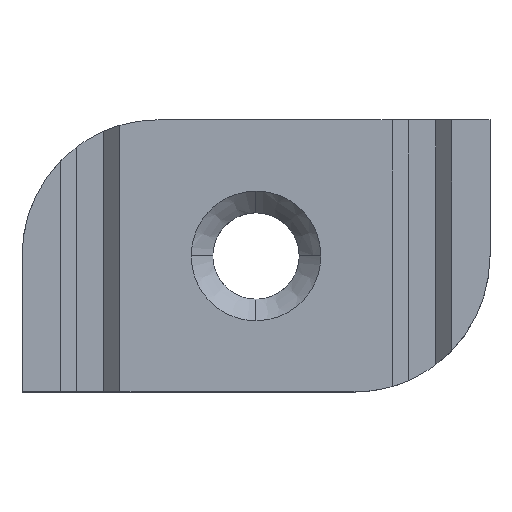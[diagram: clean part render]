
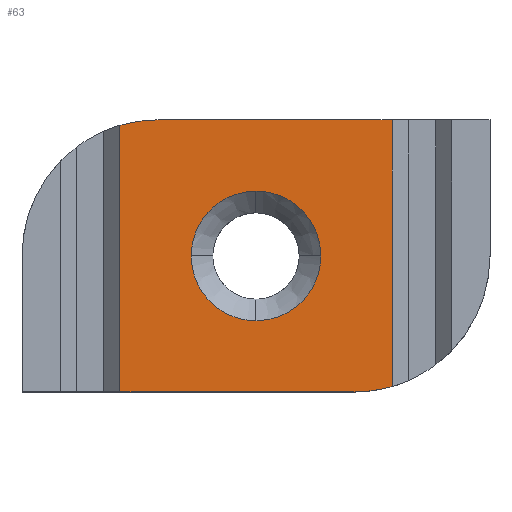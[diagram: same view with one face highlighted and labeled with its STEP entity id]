
A CAD part, top view. The second image highlights one B-rep face of the part: STEP entity #63.
In plain terms, the highlighted planar face has unit normal (0, 0, 1).
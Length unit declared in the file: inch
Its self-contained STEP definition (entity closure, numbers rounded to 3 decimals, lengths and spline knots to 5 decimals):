
#63=ADVANCED_FACE('',(#139,#140),#141,.F.);
#139=FACE_OUTER_BOUND('',#393,.T.);
#140=FACE_BOUND('',#394,.T.);
#141=PLANE('',#395);
#393=EDGE_LOOP('',(#677,#678,#679,#680,#681,#682));
#394=EDGE_LOOP('',(#683,#684,#685,#686));
#395=AXIS2_PLACEMENT_3D('',#687,#688,#689);
#677=ORIENTED_EDGE('',*,*,#872,.T.);
#678=ORIENTED_EDGE('',*,*,#878,.T.);
#679=ORIENTED_EDGE('',*,*,#879,.F.);
#680=ORIENTED_EDGE('',*,*,#880,.T.);
#681=ORIENTED_EDGE('',*,*,#881,.T.);
#682=ORIENTED_EDGE('',*,*,#867,.F.);
#683=ORIENTED_EDGE('',*,*,#882,.F.);
#684=ORIENTED_EDGE('',*,*,#883,.F.);
#685=ORIENTED_EDGE('',*,*,#861,.F.);
#686=ORIENTED_EDGE('',*,*,#855,.F.);
#687=CARTESIAN_POINT('',(0.67717,0.3937,0.25591));
#688=DIRECTION('',(0.0,0.0,-1.0));
#689=DIRECTION('',(1.0,0.0,0.0));
#855=EDGE_CURVE('',#954,#957,#958,.T.);
#861=EDGE_CURVE('',#957,#964,#967,.T.);
#867=EDGE_CURVE('',#976,#978,#979,.T.);
#872=EDGE_CURVE('',#976,#984,#987,.T.);
#878=EDGE_CURVE('',#984,#994,#995,.T.);
#879=EDGE_CURVE('',#996,#994,#997,.T.);
#880=EDGE_CURVE('',#996,#998,#999,.T.);
#881=EDGE_CURVE('',#998,#978,#1000,.T.);
#882=EDGE_CURVE('',#1001,#954,#1002,.T.);
#883=EDGE_CURVE('',#964,#1001,#1003,.T.);
#954=VERTEX_POINT('',#1095);
#957=VERTEX_POINT('',#1099);
#958=B_SPLINE_CURVE_WITH_KNOTS('',3,(#1100,#1101,#1102,#1103,#1104,#1105,#1106,#1107,#1108,#1109,#1110,#1111,#1112,#1113),.UNSPECIFIED.,.F.,.F.,(4,2,2,2,2,2,4),(0.0,0.06432,1.94262,3.7174,3.80371,5.61455,7.43479),.UNSPECIFIED.);
#964=VERTEX_POINT('',#1133);
#967=B_SPLINE_CURVE_WITH_KNOTS('',3,(#1146,#1147,#1148,#1149,#1150,#1151,#1152,#1153,#1154,#1155),.UNSPECIFIED.,.F.,.F.,(4,2,2,2,4),(0.0,1.85394,3.71681,5.57967,7.43361),.UNSPECIFIED.);
#976=VERTEX_POINT('',#1165);
#978=VERTEX_POINT('',#1167);
#979=CIRCLE('',#1168,0.3937);
#984=VERTEX_POINT('',#1174);
#987=LINE('',#1178,#1179);
#994=VERTEX_POINT('',#1189);
#995=LINE('',#1190,#1191);
#996=VERTEX_POINT('',#1192);
#997=CIRCLE('',#1193,0.3937);
#998=VERTEX_POINT('',#1194);
#999=LINE('',#1195,#1196);
#1000=LINE('',#1197,#1198);
#1001=VERTEX_POINT('',#1199);
#1002=B_SPLINE_CURVE_WITH_KNOTS('',3,(#1200,#1201,#1202,#1203,#1204,#1205,#1206,#1207,#1208,#1209,#1210,#1211,#1212,#1213),.UNSPECIFIED.,.F.,.F.,(4,2,2,2,2,2,4),(0.0,0.98873,1.95164,3.7219,3.81272,5.62356,7.4438),.UNSPECIFIED.);
#1003=B_SPLINE_CURVE_WITH_KNOTS('',3,(#1214,#1215,#1216,#1217,#1218,#1219,#1220,#1221,#1222,#1223,#1224,#1225,#1226,#1227),.UNSPECIFIED.,.F.,.F.,(4,2,2,2,2,2,4),(0.0,1.82025,3.63108,3.7174,5.49217,7.37048,7.43479),.UNSPECIFIED.);
#1095=CARTESIAN_POINT('',(0.86467,0.3937,0.25591));
#1099=CARTESIAN_POINT('',(0.67717,0.5812,0.25591));
#1100=CARTESIAN_POINT('',(0.86467,0.3937,0.25591));
#1101=CARTESIAN_POINT('',(0.86467,0.39454,0.25591));
#1102=CARTESIAN_POINT('',(0.86466,0.39539,0.25591));
#1103=CARTESIAN_POINT('',(0.86432,0.42088,0.25591));
#1104=CARTESIAN_POINT('',(0.85896,0.44593,0.25591));
#1105=CARTESIAN_POINT('',(0.83982,0.48989,0.25591));
#1106=CARTESIAN_POINT('',(0.82622,0.50982,0.25591));
#1107=CARTESIAN_POINT('',(0.80892,0.52711,0.25591));
#1108=CARTESIAN_POINT('',(0.80811,0.52791,0.25591));
#1109=CARTESIAN_POINT('',(0.79019,0.54519,0.25591));
#1110=CARTESIAN_POINT('',(0.76954,0.55862,0.25591));
#1111=CARTESIAN_POINT('',(0.72537,0.57651,0.25591));
#1112=CARTESIAN_POINT('',(0.70105,0.5812,0.25591));
#1113=CARTESIAN_POINT('',(0.67717,0.5812,0.25591));
#1133=CARTESIAN_POINT('',(0.48967,0.3937,0.25591));
#1146=CARTESIAN_POINT('',(0.67717,0.5812,0.25591));
#1147=CARTESIAN_POINT('',(0.65284,0.5812,0.25591));
#1148=CARTESIAN_POINT('',(0.62805,0.57632,0.25591));
#1149=CARTESIAN_POINT('',(0.58297,0.55769,0.25591));
#1150=CARTESIAN_POINT('',(0.56187,0.54357,0.25591));
#1151=CARTESIAN_POINT('',(0.5273,0.509,0.25591));
#1152=CARTESIAN_POINT('',(0.51318,0.48789,0.25591));
#1153=CARTESIAN_POINT('',(0.49454,0.44282,0.25591));
#1154=CARTESIAN_POINT('',(0.48967,0.41803,0.25591));
#1155=CARTESIAN_POINT('',(0.48967,0.3937,0.25591));
#1165=CARTESIAN_POINT('',(1.07087,0.01575,0.25591));
#1167=CARTESIAN_POINT('',(0.96063,0.,0.25591));
#1168=AXIS2_PLACEMENT_3D('',#1392,#1393,#1394);
#1174=CARTESIAN_POINT('',(1.07087,0.7874,0.25591));
#1178=CARTESIAN_POINT('',(1.07087,0.19685,0.25591));
#1179=VECTOR('',#1400,0.3937);
#1189=CARTESIAN_POINT('',(0.3937,0.7874,0.25591));
#1190=CARTESIAN_POINT('',(1.35433,0.7874,0.25591));
#1191=VECTOR('',#1404,0.3937);
#1192=CARTESIAN_POINT('',(0.28346,0.77165,0.25591));
#1193=AXIS2_PLACEMENT_3D('',#1405,#1406,#1407);
#1194=CARTESIAN_POINT('',(0.28346,0.,0.25591));
#1195=CARTESIAN_POINT('',(0.28346,0.19685,0.25591));
#1196=VECTOR('',#1408,0.3937);
#1197=CARTESIAN_POINT('',(0.0,0.,0.25591));
#1198=VECTOR('',#1409,0.3937);
#1199=CARTESIAN_POINT('',(0.67717,0.2062,0.25591));
#1200=CARTESIAN_POINT('',(0.67717,0.2062,0.25591));
#1201=CARTESIAN_POINT('',(0.69014,0.2062,0.25591));
#1202=CARTESIAN_POINT('',(0.70319,0.20755,0.25591));
#1203=CARTESIAN_POINT('',(0.72825,0.21282,0.25591));
#1204=CARTESIAN_POINT('',(0.74041,0.2167,0.25591));
#1205=CARTESIAN_POINT('',(0.7733,0.23102,0.25591));
#1206=CARTESIAN_POINT('',(0.79318,0.24458,0.25591));
#1207=CARTESIAN_POINT('',(0.81049,0.26186,0.25591));
#1208=CARTESIAN_POINT('',(0.81133,0.26271,0.25591));
#1209=CARTESIAN_POINT('',(0.82865,0.28068,0.25591));
#1210=CARTESIAN_POINT('',(0.84208,0.30132,0.25591));
#1211=CARTESIAN_POINT('',(0.85997,0.34549,0.25591));
#1212=CARTESIAN_POINT('',(0.86467,0.36981,0.25591));
#1213=CARTESIAN_POINT('',(0.86467,0.3937,0.25591));
#1214=CARTESIAN_POINT('',(0.48967,0.3937,0.25591));
#1215=CARTESIAN_POINT('',(0.48967,0.36981,0.25591));
#1216=CARTESIAN_POINT('',(0.49436,0.34549,0.25591));
#1217=CARTESIAN_POINT('',(0.51225,0.30132,0.25591));
#1218=CARTESIAN_POINT('',(0.52568,0.28068,0.25591));
#1219=CARTESIAN_POINT('',(0.54296,0.26276,0.25591));
#1220=CARTESIAN_POINT('',(0.54375,0.26195,0.25591));
#1221=CARTESIAN_POINT('',(0.56105,0.24464,0.25591));
#1222=CARTESIAN_POINT('',(0.58098,0.23105,0.25591));
#1223=CARTESIAN_POINT('',(0.62493,0.2119,0.25591));
#1224=CARTESIAN_POINT('',(0.64999,0.20655,0.25591));
#1225=CARTESIAN_POINT('',(0.67548,0.20621,0.25591));
#1226=CARTESIAN_POINT('',(0.67632,0.2062,0.25591));
#1227=CARTESIAN_POINT('',(0.67717,0.2062,0.25591));
#1392=CARTESIAN_POINT('',(0.96063,0.3937,0.25591));
#1393=DIRECTION('',(0.0,0.0,-1.0));
#1394=DIRECTION('',(0.707,-0.707,0.0));
#1400=DIRECTION('',(0.0,1.0,0.0));
#1404=DIRECTION('',(-1.0,0.0,0.0));
#1405=CARTESIAN_POINT('',(0.3937,0.3937,0.25591));
#1406=DIRECTION('',(0.0,0.0,-1.0));
#1407=DIRECTION('',(-0.707,0.707,0.0));
#1408=DIRECTION('',(0.0,-1.0,0.0));
#1409=DIRECTION('',(1.0,0.0,0.0));
